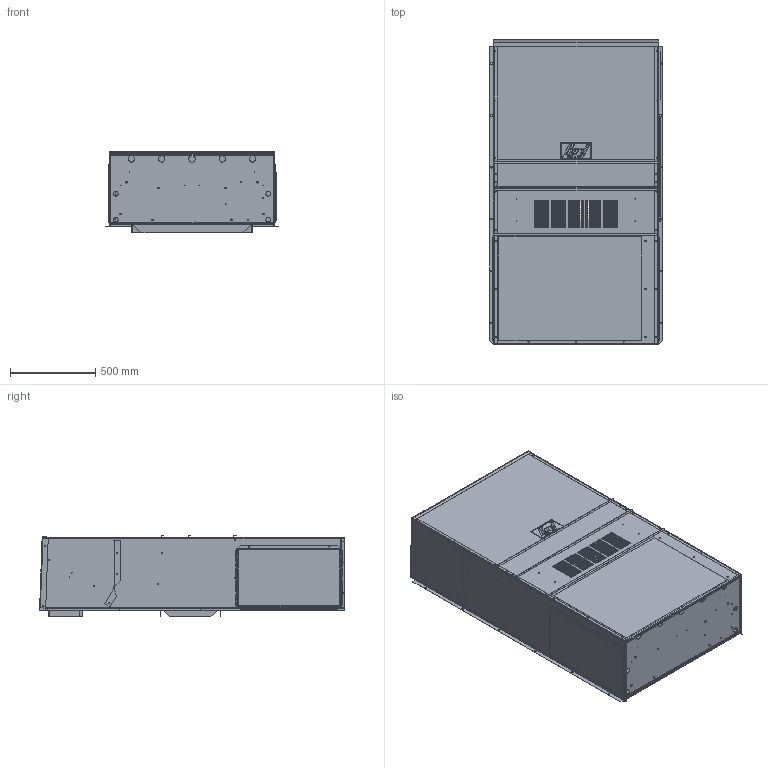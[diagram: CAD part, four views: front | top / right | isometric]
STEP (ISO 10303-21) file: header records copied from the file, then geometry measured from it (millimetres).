
FILE_DESCRIPTION (( 'STEP AP203' ), '1' );
FILE_NAME ('STEP_400.STEP', '2016-06-16T15:43:59', ( '' ), ( '' ), 'SwSTEP 2.0', 'SolidWorks 2016', '' );
FILE_SCHEMA (( 'CONFIG_CONTROL_DESIGN' ));
Products named in the file (1): STEP_400
Bounding box: 1015.56 x 1792.28 x 477.94 mm (x, y, z)
Volume: 6223360.3 mm3; surface area: 12931532.3 mm2
Topology: 23 solids, 23 shells, 2853 faces, 7724 edges, 4997 vertices
Faces by surface type: plane 1123, cylinder 963, bspline 767
Entity records: 113737 total; most frequent: CARTESIAN_POINT 42974, ORIENTED_EDGE 15448, DIRECTION 13902, EDGE_CURVE 7724, VERTEX_POINT 4997, AXIS2_PLACEMENT_3D 4953, LINE 3996, VECTOR 3996
